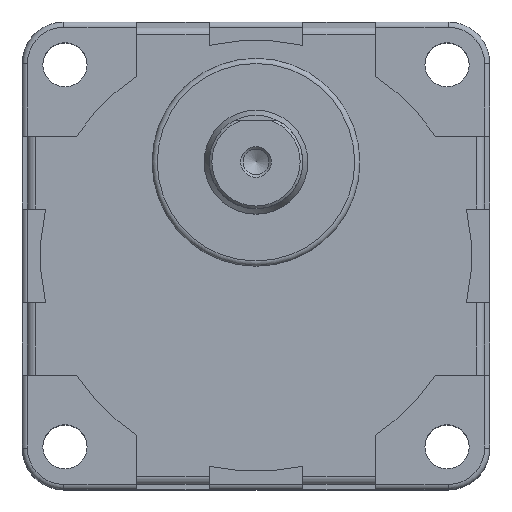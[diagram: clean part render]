
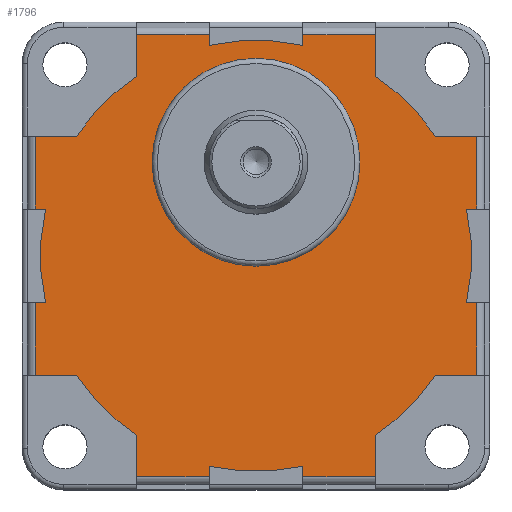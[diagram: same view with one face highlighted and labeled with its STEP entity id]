
A CAD part, top view. The second image highlights one B-rep face of the part: STEP entity #1796.
In plain terms, the highlighted planar face has unit normal (0, 0, 1).
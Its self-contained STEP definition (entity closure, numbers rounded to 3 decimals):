
#45=FACE_BOUND('',#334,.T.);
#120=CIRCLE('',#1923,20.);
#125=CIRCLE('',#1933,41.5);
#126=CIRCLE('',#1934,41.5);
#127=CIRCLE('',#1935,41.5);
#128=CIRCLE('',#1936,41.5);
#129=CIRCLE('',#1937,41.5);
#130=CIRCLE('',#1938,41.5);
#131=CIRCLE('',#1939,41.5);
#132=CIRCLE('',#1940,41.5);
#210=FACE_OUTER_BOUND('',#333,.T.);
#333=EDGE_LOOP('',(#1270,#1271,#1272,#1273,#1274,#1275,#1276,#1277,#1278,
#1279,#1280,#1281,#1282,#1283,#1284,#1285,#1286,#1287,#1288,#1289,#1290,
#1291,#1292,#1293,#1294,#1295,#1296,#1297,#1298,#1299,#1300,#1301));
#334=EDGE_LOOP('',(#1302));
#432=LINE('',#2738,#599);
#436=LINE('',#2750,#603);
#438=LINE('',#2756,#605);
#439=LINE('',#2760,#606);
#440=LINE('',#2762,#607);
#441=LINE('',#2764,#608);
#442=LINE('',#2768,#609);
#443=LINE('',#2770,#610);
#444=LINE('',#2772,#611);
#445=LINE('',#2776,#612);
#446=LINE('',#2778,#613);
#447=LINE('',#2780,#614);
#448=LINE('',#2784,#615);
#449=LINE('',#2786,#616);
#450=LINE('',#2788,#617);
#451=LINE('',#2792,#618);
#452=LINE('',#2794,#619);
#453=LINE('',#2796,#620);
#454=LINE('',#2800,#621);
#455=LINE('',#2802,#622);
#456=LINE('',#2804,#623);
#457=LINE('',#2807,#624);
#458=LINE('',#2809,#625);
#459=LINE('',#2812,#626);
#599=VECTOR('',#2184,14.);
#603=VECTOR('',#2194,14.);
#605=VECTOR('',#2200,7.957);
#606=VECTOR('',#2203,7.957);
#607=VECTOR('',#2204,14.);
#608=VECTOR('',#2205,1.988);
#609=VECTOR('',#2208,1.988);
#610=VECTOR('',#2209,14.);
#611=VECTOR('',#2210,7.957);
#612=VECTOR('',#2213,7.957);
#613=VECTOR('',#2214,14.);
#614=VECTOR('',#2215,1.988);
#615=VECTOR('',#2218,1.988);
#616=VECTOR('',#2219,14.);
#617=VECTOR('',#2220,7.957);
#618=VECTOR('',#2223,7.957);
#619=VECTOR('',#2224,14.);
#620=VECTOR('',#2225,1.988);
#621=VECTOR('',#2228,1.988);
#622=VECTOR('',#2229,14.);
#623=VECTOR('',#2230,7.957);
#624=VECTOR('',#2233,7.957);
#625=VECTOR('',#2234,1.988);
#626=VECTOR('',#2237,1.988);
#791=VERTEX_POINT('',#2727);
#792=VERTEX_POINT('',#2731);
#795=VERTEX_POINT('',#2736);
#799=VERTEX_POINT('',#2747);
#800=VERTEX_POINT('',#2749);
#802=VERTEX_POINT('',#2755);
#803=VERTEX_POINT('',#2757);
#804=VERTEX_POINT('',#2759);
#805=VERTEX_POINT('',#2761);
#806=VERTEX_POINT('',#2763);
#807=VERTEX_POINT('',#2765);
#808=VERTEX_POINT('',#2767);
#809=VERTEX_POINT('',#2769);
#810=VERTEX_POINT('',#2771);
#811=VERTEX_POINT('',#2773);
#812=VERTEX_POINT('',#2775);
#813=VERTEX_POINT('',#2777);
#814=VERTEX_POINT('',#2779);
#815=VERTEX_POINT('',#2781);
#816=VERTEX_POINT('',#2783);
#817=VERTEX_POINT('',#2785);
#818=VERTEX_POINT('',#2787);
#819=VERTEX_POINT('',#2789);
#820=VERTEX_POINT('',#2791);
#821=VERTEX_POINT('',#2793);
#822=VERTEX_POINT('',#2795);
#823=VERTEX_POINT('',#2797);
#824=VERTEX_POINT('',#2799);
#825=VERTEX_POINT('',#2801);
#826=VERTEX_POINT('',#2803);
#827=VERTEX_POINT('',#2805);
#828=VERTEX_POINT('',#2808);
#829=VERTEX_POINT('',#2810);
#973=EDGE_CURVE('',#791,#791,#120,.T.);
#977=EDGE_CURVE('',#795,#792,#432,.T.);
#982=EDGE_CURVE('',#799,#800,#436,.T.);
#985=EDGE_CURVE('',#795,#802,#438,.T.);
#986=EDGE_CURVE('',#803,#802,#125,.T.);
#987=EDGE_CURVE('',#804,#803,#439,.T.);
#988=EDGE_CURVE('',#805,#804,#440,.T.);
#989=EDGE_CURVE('',#806,#805,#441,.T.);
#990=EDGE_CURVE('',#807,#806,#126,.T.);
#991=EDGE_CURVE('',#807,#808,#442,.T.);
#992=EDGE_CURVE('',#809,#808,#443,.T.);
#993=EDGE_CURVE('',#809,#810,#444,.T.);
#994=EDGE_CURVE('',#811,#810,#127,.T.);
#995=EDGE_CURVE('',#812,#811,#445,.T.);
#996=EDGE_CURVE('',#813,#812,#446,.T.);
#997=EDGE_CURVE('',#814,#813,#447,.T.);
#998=EDGE_CURVE('',#815,#814,#128,.T.);
#999=EDGE_CURVE('',#815,#816,#448,.T.);
#1000=EDGE_CURVE('',#817,#816,#449,.T.);
#1001=EDGE_CURVE('',#817,#818,#450,.T.);
#1002=EDGE_CURVE('',#819,#818,#129,.T.);
#1003=EDGE_CURVE('',#820,#819,#451,.T.);
#1004=EDGE_CURVE('',#821,#820,#452,.T.);
#1005=EDGE_CURVE('',#822,#821,#453,.T.);
#1006=EDGE_CURVE('',#823,#822,#130,.T.);
#1007=EDGE_CURVE('',#823,#824,#454,.T.);
#1008=EDGE_CURVE('',#825,#824,#455,.T.);
#1009=EDGE_CURVE('',#825,#826,#456,.T.);
#1010=EDGE_CURVE('',#827,#826,#131,.T.);
#1011=EDGE_CURVE('',#800,#827,#457,.T.);
#1012=EDGE_CURVE('',#828,#799,#458,.T.);
#1013=EDGE_CURVE('',#829,#828,#132,.T.);
#1014=EDGE_CURVE('',#829,#792,#459,.T.);
#1270=ORIENTED_EDGE('',*,*,#977,.F.);
#1271=ORIENTED_EDGE('',*,*,#985,.T.);
#1272=ORIENTED_EDGE('',*,*,#986,.F.);
#1273=ORIENTED_EDGE('',*,*,#987,.F.);
#1274=ORIENTED_EDGE('',*,*,#988,.F.);
#1275=ORIENTED_EDGE('',*,*,#989,.F.);
#1276=ORIENTED_EDGE('',*,*,#990,.F.);
#1277=ORIENTED_EDGE('',*,*,#991,.T.);
#1278=ORIENTED_EDGE('',*,*,#992,.F.);
#1279=ORIENTED_EDGE('',*,*,#993,.T.);
#1280=ORIENTED_EDGE('',*,*,#994,.F.);
#1281=ORIENTED_EDGE('',*,*,#995,.F.);
#1282=ORIENTED_EDGE('',*,*,#996,.F.);
#1283=ORIENTED_EDGE('',*,*,#997,.F.);
#1284=ORIENTED_EDGE('',*,*,#998,.F.);
#1285=ORIENTED_EDGE('',*,*,#999,.T.);
#1286=ORIENTED_EDGE('',*,*,#1000,.F.);
#1287=ORIENTED_EDGE('',*,*,#1001,.T.);
#1288=ORIENTED_EDGE('',*,*,#1002,.F.);
#1289=ORIENTED_EDGE('',*,*,#1003,.F.);
#1290=ORIENTED_EDGE('',*,*,#1004,.F.);
#1291=ORIENTED_EDGE('',*,*,#1005,.F.);
#1292=ORIENTED_EDGE('',*,*,#1006,.F.);
#1293=ORIENTED_EDGE('',*,*,#1007,.T.);
#1294=ORIENTED_EDGE('',*,*,#1008,.F.);
#1295=ORIENTED_EDGE('',*,*,#1009,.T.);
#1296=ORIENTED_EDGE('',*,*,#1010,.F.);
#1297=ORIENTED_EDGE('',*,*,#1011,.F.);
#1298=ORIENTED_EDGE('',*,*,#982,.F.);
#1299=ORIENTED_EDGE('',*,*,#1012,.F.);
#1300=ORIENTED_EDGE('',*,*,#1013,.F.);
#1301=ORIENTED_EDGE('',*,*,#1014,.T.);
#1302=ORIENTED_EDGE('',*,*,#973,.F.);
#1729=PLANE('',#1932);
#1796=ADVANCED_FACE('',(#210,#45),#1729,.T.);
#1923=AXIS2_PLACEMENT_3D('',#2728,#2173,#2174);
#1932=AXIS2_PLACEMENT_3D('',#2754,#2198,#2199);
#1933=AXIS2_PLACEMENT_3D('',#2758,#2201,#2202);
#1934=AXIS2_PLACEMENT_3D('',#2766,#2206,#2207);
#1935=AXIS2_PLACEMENT_3D('',#2774,#2211,#2212);
#1936=AXIS2_PLACEMENT_3D('',#2782,#2216,#2217);
#1937=AXIS2_PLACEMENT_3D('',#2790,#2221,#2222);
#1938=AXIS2_PLACEMENT_3D('',#2798,#2226,#2227);
#1939=AXIS2_PLACEMENT_3D('',#2806,#2231,#2232);
#1940=AXIS2_PLACEMENT_3D('',#2811,#2235,#2236);
#2173=DIRECTION('center_axis',(0.,0.,1.));
#2174=DIRECTION('ref_axis',(-1.,0.,0.));
#2184=DIRECTION('',(0.,-1.,0.));
#2194=DIRECTION('',(0.,-1.,0.));
#2198=DIRECTION('center_axis',(0.,0.,1.));
#2199=DIRECTION('ref_axis',(1.,0.,0.));
#2200=DIRECTION('',(-1.,0.,0.));
#2201=DIRECTION('center_axis',(0.,0.,-1.));
#2202=DIRECTION('ref_axis',(-1.,0.,0.));
#2203=DIRECTION('',(0.,-1.,0.));
#2204=DIRECTION('',(1.,0.,0.));
#2205=DIRECTION('',(0.,1.,0.));
#2206=DIRECTION('center_axis',(0.,0.,-1.));
#2207=DIRECTION('ref_axis',(-1.,0.,0.));
#2208=DIRECTION('',(0.,1.,0.));
#2209=DIRECTION('',(1.,0.,0.));
#2210=DIRECTION('',(0.,-1.,0.));
#2211=DIRECTION('center_axis',(0.,0.,-1.));
#2212=DIRECTION('ref_axis',(-1.,0.,0.));
#2213=DIRECTION('',(1.,0.,0.));
#2214=DIRECTION('',(0.,1.,0.));
#2215=DIRECTION('',(-1.,0.,0.));
#2216=DIRECTION('center_axis',(0.,0.,-1.));
#2217=DIRECTION('ref_axis',(-1.,0.,0.));
#2218=DIRECTION('',(-1.,0.,0.));
#2219=DIRECTION('',(0.,1.,0.));
#2220=DIRECTION('',(1.,0.,0.));
#2221=DIRECTION('center_axis',(0.,0.,-1.));
#2222=DIRECTION('ref_axis',(-1.,0.,0.));
#2223=DIRECTION('',(0.,1.,0.));
#2224=DIRECTION('',(-1.,0.,0.));
#2225=DIRECTION('',(0.,-1.,0.));
#2226=DIRECTION('center_axis',(0.,0.,-1.));
#2227=DIRECTION('ref_axis',(-1.,0.,0.));
#2228=DIRECTION('',(0.,-1.,0.));
#2229=DIRECTION('',(-1.,0.,0.));
#2230=DIRECTION('',(0.,1.,0.));
#2231=DIRECTION('center_axis',(0.,0.,-1.));
#2232=DIRECTION('ref_axis',(-1.,0.,0.));
#2233=DIRECTION('',(-1.,0.,0.));
#2234=DIRECTION('',(1.,0.,0.));
#2235=DIRECTION('center_axis',(0.,0.,-1.));
#2236=DIRECTION('ref_axis',(-1.,0.,0.));
#2237=DIRECTION('',(1.,0.,0.));
#2727=CARTESIAN_POINT('',(20.,18.,44.2));
#2728=CARTESIAN_POINT('Origin',(0.,18.,44.2));
#2731=CARTESIAN_POINT('',(42.5,9.,44.2));
#2736=CARTESIAN_POINT('',(42.5,23.,44.2));
#2738=CARTESIAN_POINT('',(42.5,11.5,44.2));
#2747=CARTESIAN_POINT('',(42.5,-9.,44.2));
#2749=CARTESIAN_POINT('',(42.5,-23.,44.2));
#2750=CARTESIAN_POINT('',(42.5,-11.5,44.2));
#2754=CARTESIAN_POINT('Origin',(0.,0.,
44.2));
#2755=CARTESIAN_POINT('',(34.543,23.,44.2));
#2756=CARTESIAN_POINT('',(34.543,23.,44.2));
#2757=CARTESIAN_POINT('',(23.,34.543,44.2));
#2758=CARTESIAN_POINT('Origin',(0.,0.,44.2));
#2759=CARTESIAN_POINT('',(23.,42.5,44.2));
#2760=CARTESIAN_POINT('',(23.,34.543,44.2));
#2761=CARTESIAN_POINT('',(9.,42.5,44.2));
#2762=CARTESIAN_POINT('',(11.5,42.5,44.2));
#2763=CARTESIAN_POINT('',(9.,40.512,44.2));
#2764=CARTESIAN_POINT('',(9.,45.,44.2));
#2765=CARTESIAN_POINT('',(-9.,40.512,44.2));
#2766=CARTESIAN_POINT('Origin',(0.,0.,44.2));
#2767=CARTESIAN_POINT('',(-9.,42.5,44.2));
#2768=CARTESIAN_POINT('',(-9.,45.,44.2));
#2769=CARTESIAN_POINT('',(-23.,42.5,44.2));
#2770=CARTESIAN_POINT('',(-11.5,42.5,44.2));
#2771=CARTESIAN_POINT('',(-23.,34.543,44.2));
#2772=CARTESIAN_POINT('',(-23.,34.543,44.2));
#2773=CARTESIAN_POINT('',(-34.543,23.,44.2));
#2774=CARTESIAN_POINT('Origin',(0.,0.,44.2));
#2775=CARTESIAN_POINT('',(-42.5,23.,44.2));
#2776=CARTESIAN_POINT('',(-34.543,23.,44.2));
#2777=CARTESIAN_POINT('',(-42.5,9.,44.2));
#2778=CARTESIAN_POINT('',(-42.5,11.5,44.2));
#2779=CARTESIAN_POINT('',(-40.512,9.,44.2));
#2780=CARTESIAN_POINT('',(-45.,9.,44.2));
#2781=CARTESIAN_POINT('',(-40.512,-9.,44.2));
#2782=CARTESIAN_POINT('Origin',(0.,0.,44.2));
#2783=CARTESIAN_POINT('',(-42.5,-9.,44.2));
#2784=CARTESIAN_POINT('',(-45.,-9.,44.2));
#2785=CARTESIAN_POINT('',(-42.5,-23.,44.2));
#2786=CARTESIAN_POINT('',(-42.5,-11.5,44.2));
#2787=CARTESIAN_POINT('',(-34.543,-23.,44.2));
#2788=CARTESIAN_POINT('',(-34.543,-23.,44.2));
#2789=CARTESIAN_POINT('',(-23.,-34.543,44.2));
#2790=CARTESIAN_POINT('Origin',(0.,0.,44.2));
#2791=CARTESIAN_POINT('',(-23.,-42.5,44.2));
#2792=CARTESIAN_POINT('',(-23.,-34.543,44.2));
#2793=CARTESIAN_POINT('',(-9.,-42.5,44.2));
#2794=CARTESIAN_POINT('',(-11.5,-42.5,44.2));
#2795=CARTESIAN_POINT('',(-9.,-40.512,44.2));
#2796=CARTESIAN_POINT('',(-9.,-45.,44.2));
#2797=CARTESIAN_POINT('',(9.,-40.512,44.2));
#2798=CARTESIAN_POINT('Origin',(0.,0.,44.2));
#2799=CARTESIAN_POINT('',(9.,-42.5,44.2));
#2800=CARTESIAN_POINT('',(9.,-45.,44.2));
#2801=CARTESIAN_POINT('',(23.,-42.5,44.2));
#2802=CARTESIAN_POINT('',(11.5,-42.5,44.2));
#2803=CARTESIAN_POINT('',(23.,-34.543,44.2));
#2804=CARTESIAN_POINT('',(23.,-34.543,44.2));
#2805=CARTESIAN_POINT('',(34.543,-23.,44.2));
#2806=CARTESIAN_POINT('Origin',(0.,0.,44.2));
#2807=CARTESIAN_POINT('',(34.543,-23.,44.2));
#2808=CARTESIAN_POINT('',(40.512,-9.,44.2));
#2809=CARTESIAN_POINT('',(45.,-9.,44.2));
#2810=CARTESIAN_POINT('',(40.512,9.,44.2));
#2811=CARTESIAN_POINT('Origin',(0.,0.,44.2));
#2812=CARTESIAN_POINT('',(45.,9.,44.2));
